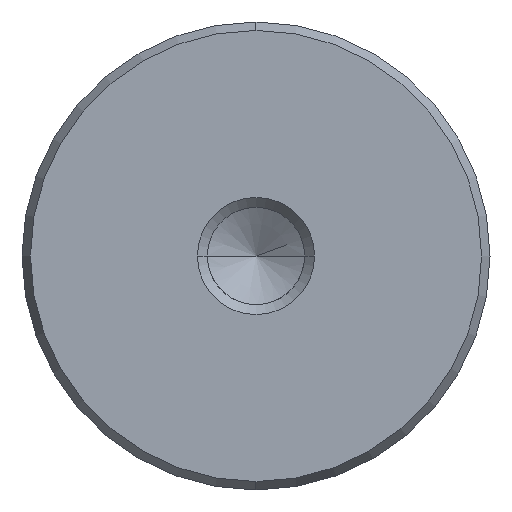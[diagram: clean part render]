
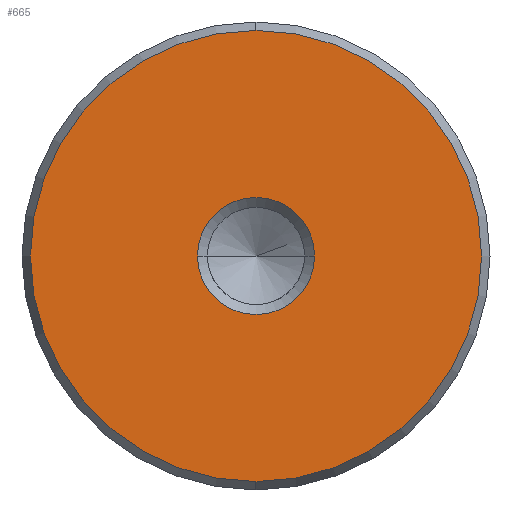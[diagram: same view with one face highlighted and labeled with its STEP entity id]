
A CAD part, left-side view. The second image highlights one B-rep face of the part: STEP entity #665.
In plain terms, the highlighted planar face has unit normal (-1, 0, 0).
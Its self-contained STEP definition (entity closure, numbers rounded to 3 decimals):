
#579=CARTESIAN_POINT('Vertex',(0.,0.,-15.423)) ;
#582=CARTESIAN_POINT('Axis2P3D Location',(0.,0.,0.)) ;
#586=CARTESIAN_POINT('Vertex',(0.,15.423,0.)) ;
#589=CARTESIAN_POINT('Axis2P3D Location',(0.,0.,0.)) ;
#593=CARTESIAN_POINT('Vertex',(0.,0.,15.423)) ;
#615=CARTESIAN_POINT('Axis2P3D Location',(0.,0.,0.)) ;
#619=CARTESIAN_POINT('Vertex',(0.,-15.423,0.)) ;
#622=CARTESIAN_POINT('Axis2P3D Location',(0.,0.,0.)) ;
#636=CARTESIAN_POINT('Axis2P3D Location',(0.,0.,0.)) ;
#647=CARTESIAN_POINT('Axis2P3D Location',(0.,0.,0.)) ;
#651=CARTESIAN_POINT('Vertex',(0.,4.,0.)) ;
#653=CARTESIAN_POINT('Vertex',(0.,-4.,0.)) ;
#656=CARTESIAN_POINT('Axis2P3D Location',(0.,0.,0.)) ;
#583=DIRECTION('Axis2P3D Direction',(1.,0.,-0.)) ;
#590=DIRECTION('Axis2P3D Direction',(1.,0.,-0.)) ;
#616=DIRECTION('Axis2P3D Direction',(1.,0.,-0.)) ;
#623=DIRECTION('Axis2P3D Direction',(1.,0.,-0.)) ;
#637=DIRECTION('Axis2P3D Direction',(1.,0.,-0.)) ;
#638=DIRECTION('Axis2P3D XDirection',(-0.,0.,-1.)) ;
#648=DIRECTION('Axis2P3D Direction',(1.,0.,-0.)) ;
#657=DIRECTION('Axis2P3D Direction',(1.,0.,-0.)) ;
#584=AXIS2_PLACEMENT_3D('Circle Axis2P3D',#582,#583,$) ;
#591=AXIS2_PLACEMENT_3D('Circle Axis2P3D',#589,#590,$) ;
#617=AXIS2_PLACEMENT_3D('Circle Axis2P3D',#615,#616,$) ;
#624=AXIS2_PLACEMENT_3D('Circle Axis2P3D',#622,#623,$) ;
#639=AXIS2_PLACEMENT_3D('Plane Axis2P3D',#636,#637,#638) ;
#649=AXIS2_PLACEMENT_3D('Circle Axis2P3D',#647,#648,$) ;
#658=AXIS2_PLACEMENT_3D('Circle Axis2P3D',#656,#657,$) ;
#642=ORIENTED_EDGE('',*,*,#588,.F.) ;
#643=ORIENTED_EDGE('',*,*,#626,.F.) ;
#644=ORIENTED_EDGE('',*,*,#621,.F.) ;
#645=ORIENTED_EDGE('',*,*,#595,.F.) ;
#662=ORIENTED_EDGE('',*,*,#655,.T.) ;
#663=ORIENTED_EDGE('',*,*,#660,.T.) ;
#664=FACE_BOUND('',#661,.T.) ;
#665=ADVANCED_FACE('720-32x500',(#646,#664),#640,.F.) ;
#585=CIRCLE('generated circle',#584,15.423) ;
#592=CIRCLE('generated circle',#591,15.423) ;
#618=CIRCLE('generated circle',#617,15.423) ;
#625=CIRCLE('generated circle',#624,15.423) ;
#650=CIRCLE('generated circle',#649,4.) ;
#659=CIRCLE('generated circle',#658,4.) ;
#588=EDGE_CURVE('',#580,#587,#585,.T.) ;
#595=EDGE_CURVE('',#587,#594,#592,.T.) ;
#621=EDGE_CURVE('',#594,#620,#618,.T.) ;
#626=EDGE_CURVE('',#620,#580,#625,.T.) ;
#655=EDGE_CURVE('',#652,#654,#650,.T.) ;
#660=EDGE_CURVE('',#654,#652,#659,.T.) ;
#641=EDGE_LOOP('',(#642,#643,#644,#645)) ;
#661=EDGE_LOOP('',(#662,#663)) ;
#646=FACE_OUTER_BOUND('',#641,.T.) ;
#640=PLANE('Plane',#639) ;
#580=VERTEX_POINT('',#579) ;
#587=VERTEX_POINT('',#586) ;
#594=VERTEX_POINT('',#593) ;
#620=VERTEX_POINT('',#619) ;
#652=VERTEX_POINT('',#651) ;
#654=VERTEX_POINT('',#653) ;
